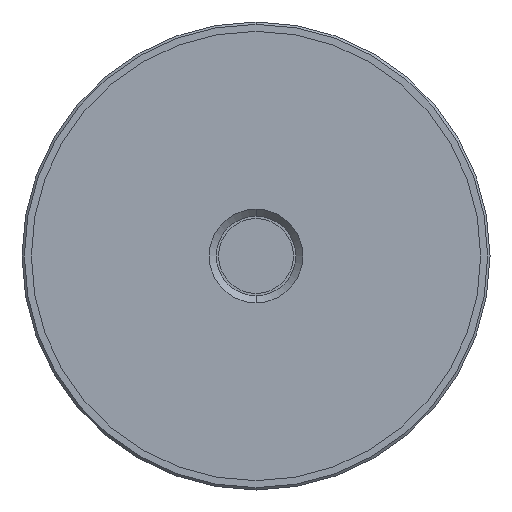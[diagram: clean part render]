
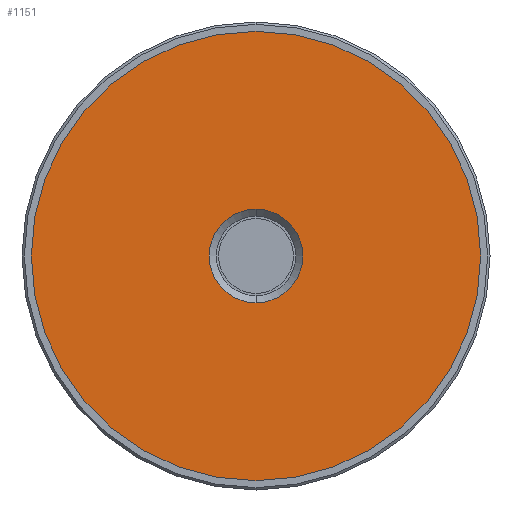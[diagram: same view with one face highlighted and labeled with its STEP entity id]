
A CAD part, front view. The second image highlights one B-rep face of the part: STEP entity #1151.
In plain terms, the highlighted planar face has unit normal (0, -1, 0).
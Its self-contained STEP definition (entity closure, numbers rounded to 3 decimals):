
#47 = CARTESIAN_POINT ( 'NONE',  ( 0., -1.5, 48. ) ) ;
#81 = FACE_OUTER_BOUND ( 'NONE', #903, .T. ) ;
#149 = CIRCLE ( 'NONE', #669, 48. ) ;
#176 = ORIENTED_EDGE ( 'NONE', *, *, #492, .F. ) ;
#185 = AXIS2_PLACEMENT_3D ( 'NONE', #797, #503, #1088 ) ;
#190 = CARTESIAN_POINT ( 'NONE',  ( 0., -1.5, 0. ) ) ;
#216 = CIRCLE ( 'NONE', #943, 48. ) ;
#239 = CARTESIAN_POINT ( 'NONE',  ( 0., -1.5, 48. ) ) ;
#240 = FACE_BOUND ( 'NONE', #352, .T. ) ;
#254 = CARTESIAN_POINT ( 'NONE',  ( 0., -1.5, 0. ) ) ;
#258 = ORIENTED_EDGE ( 'NONE', *, *, #1139, .F. ) ;
#298 = AXIS2_PLACEMENT_3D ( 'NONE', #47, #336, #342 ) ;
#314 = CARTESIAN_POINT ( 'NONE',  ( 0., -1.5, 10. ) ) ;
#336 = DIRECTION ( 'NONE',  ( 0., -1., 0. ) ) ;
#342 = DIRECTION ( 'NONE',  ( 0., 0., -1. ) ) ;
#352 = EDGE_LOOP ( 'NONE', ( #1188, #621 ) ) ;
#413 = VERTEX_POINT ( 'NONE', #314 ) ;
#492 = EDGE_CURVE ( 'NONE', #582, #682, #216, .T. ) ;
#503 = DIRECTION ( 'NONE',  ( 0., 1., 0. ) ) ;
#536 = EDGE_CURVE ( 'NONE', #413, #1183, #1051, .T. ) ;
#548 = DIRECTION ( 'NONE',  ( 0., 1., 0. ) ) ;
#582 = VERTEX_POINT ( 'NONE', #686 ) ;
#621 = ORIENTED_EDGE ( 'NONE', *, *, #536, .T. ) ;
#628 = DIRECTION ( 'NONE',  ( 0., 0., 1. ) ) ;
#664 = CARTESIAN_POINT ( 'NONE',  ( 0., -1.5, 0. ) ) ;
#669 = AXIS2_PLACEMENT_3D ( 'NONE', #190, #1085, #673 ) ;
#673 = DIRECTION ( 'NONE',  ( 0., 0., 1. ) ) ;
#682 = VERTEX_POINT ( 'NONE', #239 ) ;
#686 = CARTESIAN_POINT ( 'NONE',  ( 0., -1.5, -48. ) ) ;
#751 = DIRECTION ( 'NONE',  ( 0., 0., -1. ) ) ;
#797 = CARTESIAN_POINT ( 'NONE',  ( 0., -1.5, 0. ) ) ;
#827 = PLANE ( 'NONE',  #298 ) ;
#903 = EDGE_LOOP ( 'NONE', ( #258, #176 ) ) ;
#943 = AXIS2_PLACEMENT_3D ( 'NONE', #254, #548, #628 ) ;
#955 = DIRECTION ( 'NONE',  ( 0., 1., 0. ) ) ;
#1005 = CIRCLE ( 'NONE', #1034, 10. ) ;
#1012 = EDGE_CURVE ( 'NONE', #1183, #413, #1005, .T. ) ;
#1034 = AXIS2_PLACEMENT_3D ( 'NONE', #664, #955, #751 ) ;
#1051 = CIRCLE ( 'NONE', #185, 10. ) ;
#1085 = DIRECTION ( 'NONE',  ( 0., 1., 0. ) ) ;
#1088 = DIRECTION ( 'NONE',  ( 0., 0., -1. ) ) ;
#1114 = CARTESIAN_POINT ( 'NONE',  ( 0., -1.5, -10. ) ) ;
#1139 = EDGE_CURVE ( 'NONE', #682, #582, #149, .T. ) ;
#1151 = ADVANCED_FACE ( 'NONE', ( #240, #81 ), #827, .T. ) ;
#1183 = VERTEX_POINT ( 'NONE', #1114 ) ;
#1188 = ORIENTED_EDGE ( 'NONE', *, *, #1012, .T. ) ;
